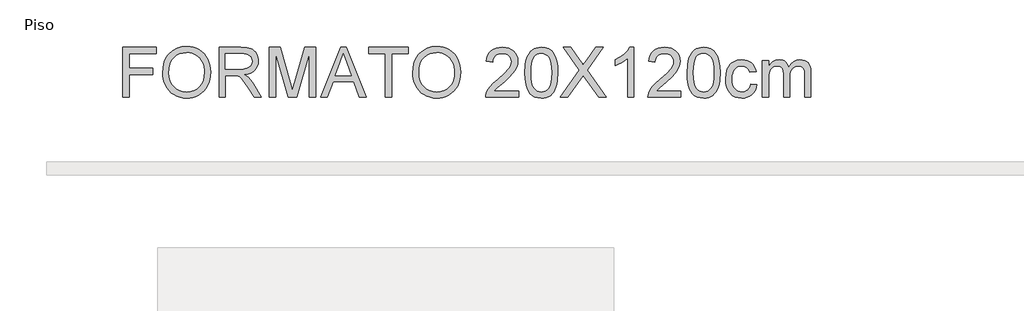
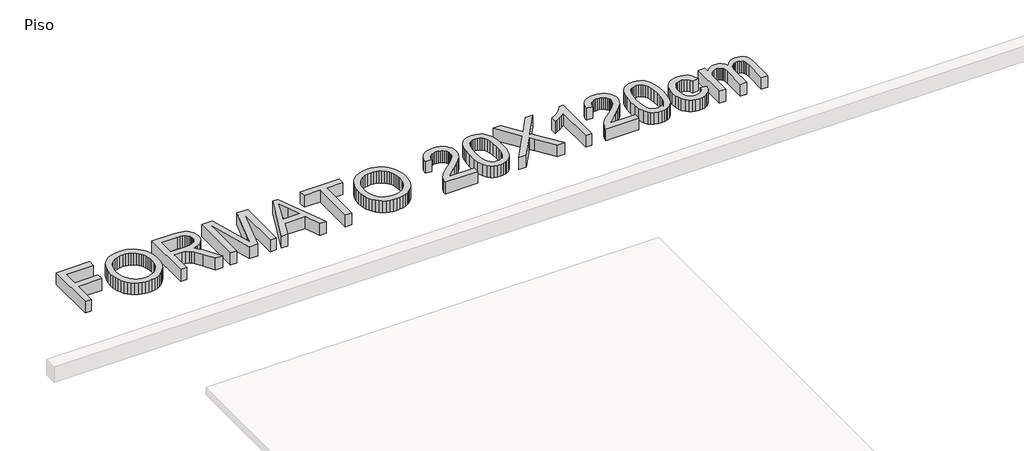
# One storey, part 2 of 2: 1 proxy.
"""IFC4 building model written with IfcOpenShell, lengths in millimetres."""

from ifc_helpers import new_model, si_unit, origin, origin_with_axes, place, context, project, spatial, polyline, outline, extrude, element, save

model = new_model("IFC4")

# Units and contexts
model_context = context("Model", 3, world=origin())
ifc_project = project(units=[si_unit("LENGTHUNIT", "METRE", prefix="MILLI")], contexts=[model_context])

# Site, building, storey
site = spatial("IfcSite", under=ifc_project)
building = spatial("IfcBuilding", under=site)
storey = spatial("IfcBuildingStorey", under=building, Name="Piso", Elevation=0.0)

# Proxy
placement = place(None, origin())
element("IfcBuildingElementProxy", 1, Name="600mm Arial", ObjectType="600mm Arial", at=placement, inside=storey, context=model_context, shape_type="SweptSolid", body=[
    extrude(outline(polyline([(192302.0859381, 2702.6380465), (192302.0859381, 3305.3759074), (192707.0504384, 3305.3759074), (192707.0504384, 3230.0336748), (192377.4281707, 3230.0336748), (192377.4281707, 3051.0958724), (192659.961543, 3051.0958724), (192659.961543, 2975.7536397), (192377.4281707, 2975.7536397), (192377.4281707, 2702.6380465), (192302.0859381, 2702.6380465)])), origin_with_axes(), (0.0, 0.0, 1.0), 150.0),
    extrude(outline(polyline([(192782.392671, 2996.0607259), (192787.4142602, 3066.7584483), (192802.4790279, 3129.3443727), (192827.5869741, 3183.8184992), (192843.9071391, 3208.0136381), (192862.7380987, 3230.1808276), (192905.8262774, 3267.1989534), (192954.7453857, 3293.6404718), (193009.4954237, 3309.5053828), (193070.0763912, 3314.7936865), (193110.6261841, 3312.310483), (193149.134232, 3304.8608726), (193185.6005348, 3292.4448553), (193220.0250925, 3275.062431), (193251.4422148, 3253.2378317), (193278.8862117, 3227.495289), (193302.357083, 3197.8348032), (193321.8548287, 3164.2563741), (193337.1771138, 3127.5233569), (193348.1216032, 3088.3991067), (193354.6882968, 3046.8836235), (193356.8771947, 3002.9769074), (193354.5733337, 2958.4907771), (193347.6617507, 2916.4142739), (193336.1424457, 2876.7473978), (193320.0154187, 2839.4901487), (193299.6623474, 2805.6266111), (193275.4649091, 2776.1408692), (193247.423104, 2751.032923), (193215.5369321, 2730.3027726), (193181.0617906, 2714.0791766), (193145.2530769, 2702.4908937), (193108.110791, 2695.537924), (193069.6349328, 2693.2202674), (193028.3769671, 2695.7816458), (192989.3630815, 2703.465781), (192952.5932761, 2716.272673), (192918.0675508, 2734.2023217), (192886.6872166, 2756.56035), (192859.3535844, 2782.6523805), (192836.0666541, 2812.4784132), (192816.8264257, 2846.0384482), (192801.761658, 2881.9851177), (192791.0011097, 2918.9710538), (192784.5447807, 2956.9962565), (192782.392671, 2996.0607259)]), holes=[polyline([(192857.7349036, 2995.3249619), (192861.5010955, 2945.375784), (192872.7996713, 2901.0368065), (192891.6306309, 2862.3080295), (192917.9939744, 2829.1894529), (192950.0410947, 2802.665161), (192985.9233848, 2783.7192383), (193025.6408447, 2772.3516846), (193069.1934744, 2768.5625001), (193113.4910652, 2772.3884728), (193153.6775746, 2783.8663911), (193189.7530028, 2802.9962548), (193221.7173496, 2829.7780641), (193247.8875551, 2863.5956165), (193266.5805589, 2903.8327097), (193277.7963613, 2950.4893437), (193281.5349621, 3003.5655186), (193279.9346754, 3038.0452586), (193275.1338153, 3070.2625243), (193267.1323819, 3100.2173158), (193255.9303752, 3127.9096329), (193241.6519552, 3152.9761924), (193224.4212823, 3175.0537106), (193204.2383563, 3194.1421877), (193181.1031774, 3210.2416235), (193155.7331153, 3223.0209243), (193128.84554, 3232.1489963), (193100.4404514, 3237.6258395), (193070.5178496, 3239.4514539), (193028.4781346, 3235.9335823), (192989.4734461, 3225.3799676), (192953.503784, 3207.7906097), (192920.5691484, 3183.1655086), (192893.0791663, 3150.318245), (192873.4434648, 3108.0623993), (192861.6620439, 3056.3979716), (192857.7349036, 2995.3249619)])]), origin_with_axes(), (0.0, 0.0, 1.0), 150.0),
    extrude(outline(polyline([(193460.4727645, 2702.6380465), (193460.4727645, 3305.3759074), (193720.1974531, 3305.3759074), (193790.0030617, 3301.3108114), (193840.7891711, 3289.1155232), (193860.3880844, 3279.4218327), (193877.9084644, 3266.6011451), (193893.3503112, 3250.6534606), (193906.7136247, 3231.5787792), (193917.4971656, 3210.4025718), (193925.1996949, 3188.1503097), (193929.8212125, 3164.8219926), (193931.3617183, 3140.4176208), (193928.809537, 3109.4603509), (193921.152993, 3081.0414668), (193908.3920863, 3055.1609684), (193890.5268169, 3031.8188558), (193867.3272585, 3011.76009), (193838.563485, 2995.7296321), (193804.2354964, 2983.727482), (193764.3432925, 2975.7536397), (193789.1753272, 2959.5300438), (193807.1647568, 2943.527177), (193838.0300562, 2906.9229184), (193868.233168, 2865.9776524), (193968.738529, 2702.6380465), (193881.1826142, 2702.6380465), (193802.7501728, 2827.5707721), (193746.0963456, 2910.2706446), (193725.0351013, 2934.3853094), (193706.2915137, 2949.3397125), (193670.4598074, 2963.6871103), (193626.7554263, 2966.3358607), (193535.8149971, 2966.3358607), (193535.8149971, 2702.6380465), (193460.4727645, 2702.6380465)]), holes=[polyline([(193535.8149971, 3041.6780933), (193704.4521037, 3041.6780933), (193752.8837684, 3044.3452377), (193790.4629142, 3052.3466711), (193818.7530396, 3066.2158224), (193839.3176431, 3086.4861203), (193851.8440251, 3111.0054553), (193856.0194857, 3137.6217176), (193854.0283244, 3156.8895371), (193848.0548405, 3174.3731289), (193838.099034, 3190.0724931), (193824.1609049, 3203.9876296), (193805.9185565, 3215.3827744), (193783.050092, 3223.5221635), (193755.5555114, 3228.405797), (193723.4348147, 3230.0336748), (193535.8149971, 3230.0336748), (193535.8149971, 3041.6780933)])]), origin_with_axes(), (0.0, 0.0, 1.0), 150.0),
    extrude(outline(polyline([(194063.2106254, 2702.6380465), (194063.2106254, 3305.3759074), (194192.8522405, 3305.3759074), (194316.1662853, 2880.5457794), (194341.0351082, 2791.8126422), (194367.9640702, 2887.9034193), (194489.2179758, 3305.3759074), (194618.8595909, 3305.3759074), (194618.8595909, 2702.6380465), (194543.5173583, 2702.6380465), (194543.5173583, 3230.0336748), (194392.0971291, 2702.6380465), (194289.9730872, 2702.6380465), (194138.552858, 3230.0336748), (194138.552858, 2702.6380465), (194063.2106254, 2702.6380465)])), origin_with_axes(), (0.0, 0.0, 1.0), 150.0),
    extrude(outline(polyline([(194680.5166133, 2702.6380465), (194921.1114382, 3305.3759074), (194985.2700581, 3305.3759074), (195225.864883, 2702.6380465), (195146.2552192, 2702.6380465), (195077.2405569, 2890.9936281), (194828.9937866, 2890.9936281), (194760.1262771, 2702.6380465), (194680.5166133, 2702.6380465)]), holes=[polyline([(194856.6585126, 2966.3358607), (195049.7229837, 2966.3358607), (194995.4236012, 3114.5187283), (194953.1907481, 3230.0336748), (194915.6667846, 3127.4681746), (194856.6585126, 2966.3358607)])]), origin_with_axes(), (0.0, 0.0, 1.0), 150.0),
    extrude(outline(polyline([(195457.0419287, 2702.6380465), (195457.0419287, 3230.0336748), (195259.2685681, 3230.0336748), (195259.2685681, 3305.3759074), (195730.1575219, 3305.3759074), (195730.1575219, 3230.0336748), (195532.3841613, 3230.0336748), (195532.3841613, 2702.6380465), (195457.0419287, 2702.6380465)])), origin_with_axes(), (0.0, 0.0, 1.0), 150.0),
    extrude(outline(polyline([(195786.6641964, 2996.0607259), (195791.6857856, 3066.7584483), (195806.7505533, 3129.3443727), (195831.8584995, 3183.8184992), (195848.1786645, 3208.0136381), (195867.0096242, 3230.1808276), (195910.0978028, 3267.1989534), (195959.0169111, 3293.6404718), (196013.7669491, 3309.5053828), (196074.3479166, 3314.7936865), (196114.8977096, 3312.310483), (196153.4057574, 3304.8608726), (196189.8720602, 3292.4448553), (196224.2966179, 3275.062431), (196255.7137403, 3253.2378317), (196283.1577371, 3227.495289), (196306.6286084, 3197.8348032), (196326.1263541, 3164.2563741), (196341.4486392, 3127.5233569), (196352.3931286, 3088.3991067), (196358.9598222, 3046.8836235), (196361.1487201, 3002.9769074), (196358.8448591, 2958.4907771), (196351.9332761, 2916.4142739), (196340.4139711, 2876.7473978), (196324.2869442, 2839.4901487), (196303.9338728, 2805.6266111), (196279.7364345, 2776.1408692), (196251.6946295, 2751.032923), (196219.8084575, 2730.3027726), (196185.3333161, 2714.0791766), (196149.5246024, 2702.4908937), (196112.3823164, 2695.537924), (196073.9064582, 2693.2202674), (196032.6484925, 2695.7816458), (195993.6346069, 2703.465781), (195956.8648015, 2716.272673), (195922.3390762, 2734.2023217), (195890.958742, 2756.56035), (195863.6251098, 2782.6523805), (195840.3381795, 2812.4784132), (195821.0979512, 2846.0384482), (195806.0331835, 2881.9851177), (195795.2726351, 2918.9710538), (195788.8163061, 2956.9962565), (195786.6641964, 2996.0607259)]), holes=[polyline([(195862.006429, 2995.3249619), (195865.7726209, 2945.375784), (195877.0711967, 2901.0368065), (195895.9021564, 2862.3080295), (195922.2654998, 2829.1894529), (195954.3126201, 2802.665161), (195990.1949102, 2783.7192383), (196029.9123701, 2772.3516846), (196073.4649998, 2768.5625001), (196117.7625906, 2772.3884728), (196157.9491, 2783.8663911), (196194.0245282, 2802.9962548), (196225.988875, 2829.7780641), (196252.1590805, 2863.5956165), (196270.8520844, 2903.8327097), (196282.0678867, 2950.4893437), (196285.8064875, 3003.5655186), (196284.2062008, 3038.0452586), (196279.4053407, 3070.2625243), (196271.4039074, 3100.2173158), (196260.2019006, 3127.9096329), (196245.9234807, 3152.9761924), (196228.6928077, 3175.0537106), (196208.5098818, 3194.1421877), (196185.3747028, 3210.2416235), (196160.0046407, 3223.0209243), (196133.1170654, 3232.1489963), (196104.7119768, 3237.6258395), (196074.789375, 3239.4514539), (196032.74966, 3235.9335823), (195993.7449715, 3225.3799676), (195957.7753094, 3207.7906097), (195924.8406738, 3183.1655086), (195897.3506917, 3150.318245), (195877.7149902, 3108.0623993), (195865.9335693, 3056.3979716), (195862.006429, 2995.3249619)])]), origin_with_axes(), (0.0, 0.0, 1.0), 150.0),
    extrude(outline(polyline([(197058.0643717, 2777.9802791), (197058.0643717, 2702.6380465), (196662.5176505, 2702.6380465), (196664.1731195, 2729.1623384), (196670.6110544, 2754.5829842), (196689.1890952, 2795.1787624), (196716.3755746, 2834.56053), (196755.7021599, 2875.7817076), (196810.7005182, 2921.8957157), (196892.0024391, 2994.1109513), (196940.7835917, 3047.4170524), (196955.0114278, 3069.1956665), (196965.174168, 3090.679975), (196971.271812, 3111.869978), (196973.3043601, 3132.7656753), (196971.3867752, 3152.4243694), (196965.6340205, 3170.4919739), (196956.046096, 3186.9684887), (196942.6230017, 3201.853914), (196926.1096986, 3214.1825593), (196907.2511478, 3222.9887346), (196886.0473493, 3228.2724398), (196862.4983031, 3230.0336748), (196837.6892611, 3228.3138265), (196815.5013782, 3223.1542815), (196795.9346546, 3214.5550399), (196778.9890902, 3202.5161016), (196765.2808874, 3187.4421368), (196755.4262484, 3169.7378158), (196749.4251734, 3149.4031385), (196747.2776622, 3126.438105), (196671.9354296, 3135.855884), (196678.4147512, 3174.750208), (196690.2007707, 3208.7333073), (196707.2934879, 3237.805182), (196729.6929028, 3261.965832), (196756.8839808, 3280.95774), (196788.351687, 3294.5233886), (196824.0960213, 3302.6627777), (196864.1169839, 3305.3759074), (196904.4966314, 3302.3592751), (196940.4341038, 3293.309378), (196971.9294011, 3278.2262162), (196998.9825233, 3257.1097897), (197020.7105537, 3231.5235969), (197036.2305753, 3203.0311364), (197045.5425883, 3171.6324081), (197048.6465927, 3137.327412), (197045.2988665, 3101.2933706), (197035.255688, 3065.8847286), (197017.4318054, 3029.8690812), (196990.7419666, 2992.0140239), (196948.1964139, 2946.8197208), (196882.8053892, 2888.7863361), (196796.1323912, 2816.313583), (196762.1400948, 2777.9802791), (197058.0643717, 2777.9802791)])), origin_with_axes(), (0.0, 0.0, 1.0), 150.0),
    extrude(outline(polyline([(197133.4066044, 2999.1509346), (197138.9432284, 3095.6279879), (197145.8640084, 3136.5410643), (197155.5531005, 3172.5705072), (197167.9691178, 3204.0106222), (197183.0706737, 3231.1557149), (197200.8577682, 3254.0057853), (197221.3304012, 3272.5608335), (197244.5575507, 3286.9174283), (197270.6081945, 3297.1721389), (197299.4823325, 3303.3249653), (197331.179965, 3305.3759074), (197377.6066727, 3300.5198651), (197419.1773382, 3285.9517381), (197453.9421867, 3262.2417435), (197479.9514438, 3229.9600984), (197499.5963424, 3189.3827143), (197515.2681153, 3140.7855028), (197525.532023, 3079.0732981), (197528.9533256, 2999.1509346), (197523.4718838, 2903.2257044), (197516.6200817, 2862.4505838), (197507.0275587, 2826.4671261), (197494.7081103, 2795.0132155), (197479.6755323, 2767.8267361), (197461.9298246, 2744.9076878), (197441.4709871, 2726.2560706), (197418.2162465, 2711.8029067), (197392.0828293, 2701.4792182), (197363.0707354, 2695.2850051), (197331.179965, 2693.2202674), (197289.6828759, 2696.8071169), (197252.8946764, 2707.5676653), (197220.8153664, 2725.5019125), (197193.444946, 2750.6098587), (197167.1781715, 2795.9972999), (197148.4161898, 2852.5499596), (197137.1590007, 2920.2678378), (197133.4066044, 2999.1509346)]), holes=[polyline([(197208.748837, 2999.2980874), (197210.9561289, 2933.8012967), (197217.5780048, 2880.7849027), (197228.6144647, 2840.2489053), (197244.0655085, 2812.1933047), (197262.7539139, 2793.1048277), (197283.5024584, 2779.4702012), (197306.3111421, 2771.2894253), (197331.179965, 2768.5625001), (197356.0487878, 2771.2986224), (197378.8574715, 2779.5069894), (197399.6060161, 2793.1876011), (197418.2944214, 2812.3404575), (197433.7454652, 2840.4420434), (197444.7819251, 2880.9688437), (197451.403801, 2933.9208584), (197453.611093, 2999.2980874), (197451.4773774, 3063.0612342), (197445.0762307, 3115.1441277), (197434.4076528, 3155.5467678), (197419.4716438, 3184.2691546), (197401.0959381, 3204.2911322), (197380.1082703, 3218.5925448), (197356.5086403, 3227.1733923), (197330.2970482, 3230.0336748), (197305.556984, 3227.5136831), (197283.1345764, 3219.9537081), (197263.0298254, 3207.3537498), (197245.2427309, 3189.7138081), (197229.2766523, 3158.4438385), (197217.8723104, 3116.2845619), (197211.0297053, 3063.2359782), (197208.748837, 2999.2980874)])]), origin_with_axes(), (0.0, 0.0, 1.0), 150.0),
    extrude(outline(polyline([(197557.2066628, 2702.6380465), (197789.5609309, 3031.0830918), (197594.8777791, 3305.3759074), (197685.2295971, 3305.3759074), (197794.8584317, 3151.0126222), (197821.0148415, 3111.9067662), (197831.793784, 3090.8271278), (197875.0567066, 3152.0426918), (197983.5083188, 3305.3759074), (198075.184512, 3305.3759074), (197880.5013602, 3030.200175), (198112.8556283, 2702.6380465), (198022.5038103, 2702.6380465), (197867.6990667, 2921.0127989), (197835.4726039, 2966.3358607), (197800.0087796, 2916.5982149), (197648.882856, 2702.6380465), (197557.2066628, 2702.6380465)])), origin_with_axes(), (0.0, 0.0, 1.0), 150.0),
    extrude(outline(polyline([(198442.477896, 2702.6380465), (198367.1356634, 2702.6380465), (198367.1356634, 3172.349778), (198335.6817528, 3146.910738), (198295.7665563, 3121.5084862), (198253.8647971, 3099.3068078), (198216.4511982, 3083.4694879), (198216.4511982, 3154.6914422), (198275.6250171, 3186.8811168), (198326.8893731, 3225.1776325), (198367.3012103, 3265.9021693), (198393.9174726, 3305.3759074), (198442.477896, 3305.3759074), (198442.477896, 2702.6380465)])), origin_with_axes(), (0.0, 0.0, 1.0), 150.0),
    extrude(outline(polyline([(199007.5446406, 2777.9802791), (199007.5446406, 2702.6380465), (198611.9979194, 2702.6380465), (198613.6533883, 2729.1623384), (198620.0913233, 2754.5829842), (198638.669364, 2795.1787624), (198665.8558435, 2834.56053), (198705.1824287, 2875.7817076), (198760.180787, 2921.8957157), (198841.482708, 2994.1109513), (198890.2638605, 3047.4170524), (198904.4916967, 3069.1956665), (198914.6544368, 3090.679975), (198920.7520809, 3111.869978), (198922.7846289, 3132.7656753), (198920.867044, 3152.4243694), (198915.1142893, 3170.4919739), (198905.5263648, 3186.9684887), (198892.1032705, 3201.853914), (198875.5899674, 3214.1825593), (198856.7314167, 3222.9887346), (198835.5276182, 3228.2724398), (198811.9785719, 3230.0336748), (198787.1695299, 3228.3138265), (198764.9816471, 3223.1542815), (198745.4149234, 3214.5550399), (198728.469359, 3202.5161016), (198714.7611562, 3187.4421368), (198704.9065172, 3169.7378158), (198698.9054422, 3149.4031385), (198696.7579311, 3126.438105), (198621.4156984, 3135.855884), (198627.8950201, 3174.750208), (198639.6810395, 3208.7333073), (198656.7737567, 3237.805182), (198679.1731717, 3261.965832), (198706.3642497, 3280.95774), (198737.8319558, 3294.5233886), (198773.5762902, 3302.6627777), (198813.5972527, 3305.3759074), (198853.9769002, 3302.3592751), (198889.9143726, 3293.309378), (198921.4096699, 3278.2262162), (198948.4627922, 3257.1097897), (198970.1908225, 3231.5235969), (198985.7108442, 3203.0311364), (198995.0228572, 3171.6324081), (198998.1268615, 3137.327412), (198994.7791353, 3101.2933706), (198984.7359569, 3065.8847286), (198966.9120742, 3029.8690812), (198940.2222355, 2992.0140239), (198897.6766827, 2946.8197208), (198832.2856581, 2888.7863361), (198745.61266, 2816.313583), (198711.6203637, 2777.9802791), (199007.5446406, 2777.9802791)])), origin_with_axes(), (0.0, 0.0, 1.0), 150.0),
    extrude(outline(polyline([(199082.8868732, 2999.1509346), (199088.4234972, 3095.6279879), (199095.3442773, 3136.5410643), (199105.0333693, 3172.5705072), (199117.4493866, 3204.0106222), (199132.5509425, 3231.1557149), (199150.338037, 3254.0057853), (199170.81067, 3272.5608335), (199194.0378195, 3286.9174283), (199220.0884633, 3297.1721389), (199248.9626014, 3303.3249653), (199280.6602338, 3305.3759074), (199327.0869416, 3300.5198651), (199368.657607, 3285.9517381), (199403.4224556, 3262.2417435), (199429.4317126, 3229.9600984), (199449.0766112, 3189.3827143), (199464.7483842, 3140.7855028), (199475.0122919, 3079.0732981), (199478.4335944, 2999.1509346), (199472.9521527, 2903.2257044), (199466.1003505, 2862.4505838), (199456.5078275, 2826.4671261), (199444.1883792, 2795.0132155), (199429.1558012, 2767.8267361), (199411.4100934, 2744.9076878), (199390.951256, 2726.2560706), (199367.6965153, 2711.8029067), (199341.5630981, 2701.4792182), (199312.5510043, 2695.2850051), (199280.6602338, 2693.2202674), (199239.1631447, 2696.8071169), (199202.3749452, 2707.5676653), (199170.2956352, 2725.5019125), (199142.9252148, 2750.6098587), (199116.6584403, 2795.9972999), (199097.8964586, 2852.5499596), (199086.6392695, 2920.2678378), (199082.8868732, 2999.1509346)]), holes=[polyline([(199158.2291058, 2999.2980874), (199160.4363978, 2933.8012967), (199167.0582737, 2880.7849027), (199178.0947335, 2840.2489053), (199193.5457773, 2812.1933047), (199212.2341827, 2793.1048277), (199232.9827272, 2779.4702012), (199255.7914109, 2771.2894253), (199280.6602338, 2768.5625001), (199305.5290567, 2771.2986224), (199328.3377404, 2779.5069894), (199349.0862849, 2793.1876011), (199367.7746903, 2812.3404575), (199383.2257341, 2840.4420434), (199394.2621939, 2880.9688437), (199400.8840698, 2933.9208584), (199403.0913618, 2999.2980874), (199400.9576462, 3063.0612342), (199394.5564995, 3115.1441277), (199383.8879216, 3155.5467678), (199368.9519126, 3184.2691546), (199350.576207, 3204.2911322), (199329.5885392, 3218.5925448), (199305.9889092, 3227.1733923), (199279.777317, 3230.0336748), (199255.0372528, 3227.5136831), (199232.6148452, 3219.9537081), (199212.5100942, 3207.3537498), (199194.7229997, 3189.7138081), (199178.7569211, 3158.4438385), (199167.3525793, 3116.2845619), (199160.5099742, 3063.2359782), (199158.2291058, 2999.2980874)])]), origin_with_axes(), (0.0, 0.0, 1.0), 150.0),
    extrude(outline(polyline([(199845.7269784, 2862.7402908), (199921.069211, 2853.3225117), (199912.8746396, 2817.7713154), (199900.0631491, 2786.3128063), (199882.6347396, 2758.9469844), (199860.589411, 2735.6738497), (199834.8560654, 2717.1004075), (199806.3636049, 2703.833663), (199775.1120294, 2695.8736163), (199741.101339, 2693.2202674), (199698.8454933, 2696.92208), (199660.9582463, 2708.0275178), (199627.439598, 2726.5365806), (199598.2895484, 2752.4492687), (199574.694517, 2785.2781382), (199557.8409231, 2824.5357456), (199547.7287667, 2870.2220909), (199544.3580479, 2922.337174), (199550.1154012, 2989.3836677), (199557.3120927, 3019.5545898), (199567.3874608, 3047.4906288), (199580.4104835, 3072.6307646), (199596.4501385, 3094.4139773), (199615.5064258, 3112.8402667), (199637.5793455, 3127.9096329), (199661.6710177, 3139.6266745), (199686.7835624, 3147.9959899), (199712.9169796, 3153.0175791), (199740.0712694, 3154.6914422), (199773.4979472, 3152.3921797), (199803.7332486, 3145.4943923), (199830.7771738, 3133.99808), (199854.6297227, 3117.9032427), (199874.886225, 3097.5777624), (199891.1420107, 3073.3895213), (199903.3970797, 3045.3385191), (199911.6514319, 3013.4247561), (199836.3091993, 3004.006977), (199822.6423832, 3036.8772332), (199801.3604098, 3060.440075), (199773.6405014, 3074.6219259), (199740.6598806, 3079.3492096), (199715.0598922, 3077.022356), (199691.9706985, 3070.0417951), (199671.3922994, 3058.407527), (199653.3246949, 3042.1195517), (199638.6140136, 3020.8007901), (199628.1063841, 2994.0741631), (199621.8018065, 2961.9396708), (199619.7002806, 2924.3973132), (199621.7558212, 2886.289337), (199627.9224431, 2853.7823642), (199638.2001464, 2826.8763948), (199652.5889309, 2805.5714288), (199670.2978505, 2789.3800225), (199690.5359587, 2777.8147322), (199713.3032557, 2770.8755581), (199738.5997414, 2768.5625001), (199777.613627, 2774.3382474), (199794.485615, 2781.5579315), (199809.6009665, 2791.6654894), (199822.5366171, 2804.7712854), (199832.8695027, 2820.9856844), (199840.5996231, 2840.3086862), (199845.7269784, 2862.7402908)])), origin_with_axes(), (0.0, 0.0, 1.0), 150.0),
    extrude(outline(polyline([(199986.9936645, 2702.6380465), (199986.9936645, 3145.2736631), (200062.3358972, 3145.2736631), (200062.3358972, 3072.4330281), (200084.9974281, 3105.8918955), (200114.1336821, 3132.1034877), (200148.7513778, 3149.0444536), (200187.8572339, 3154.6914422), (200229.7589932, 3148.934089), (200247.5920729, 3141.7373974), (200263.3466193, 3131.6620293), (200288.4361714, 3104.0156974), (200304.8437084, 3067.1355273), (200332.3060993, 3105.4412401), (200363.6312512, 3132.8024635), (200398.819164, 3149.2191975), (200437.8698378, 3154.6914422), (200468.0315629, 3152.4151724), (200494.505271, 3145.5863628), (200517.2909621, 3134.2050136), (200536.3886361, 3118.2711247), (200551.4855935, 3097.6007551), (200562.2691345, 3072.0099638), (200568.7392591, 3041.4987508), (200570.8959673, 3006.0671161), (200570.8959673, 2702.6380465), (200495.5537347, 2702.6380465), (200495.5537347, 2973.6935006), (200493.8062952, 3011.2726464), (200488.5639768, 3036.6013217), (200478.7415275, 3053.9469578), (200463.2536955, 3067.5769857), (200443.3328855, 3076.4061536), (200420.2115021, 3079.3492096), (200398.8605508, 3077.4638144), (200379.3949947, 3071.8076287), (200361.8148338, 3062.3806526), (200346.1200682, 3049.182886), (200333.2120087, 3031.8280529), (200323.9919662, 3009.9298771), (200318.4599407, 2983.4883587), (200316.6159322, 2952.5034976), (200316.6159322, 2702.6380465), (200241.2736996, 2702.6380465), (200241.2736996, 2982.0812101), (200236.914298, 3024.6819451), (200231.4650459, 3041.4021818), (200223.836093, 3055.0689979), (200213.7239367, 3065.6915905), (200200.8250742, 3073.2791567), (200185.1395057, 3077.8316964), (200166.667231, 3079.3492096), (200137.6413416, 3075.3025076), (200110.8963205, 3063.1624018), (200088.8234008, 3043.2231977), (200073.8138154, 3015.7792008), (200065.2053767, 2977.7034143), (200062.3358972, 2925.8688412), (200062.3358972, 2702.6380465), (199986.9936645, 2702.6380465)])), origin_with_axes(), (0.0, 0.0, 1.0), 150.0),
])

save(model, "model.ifc")
